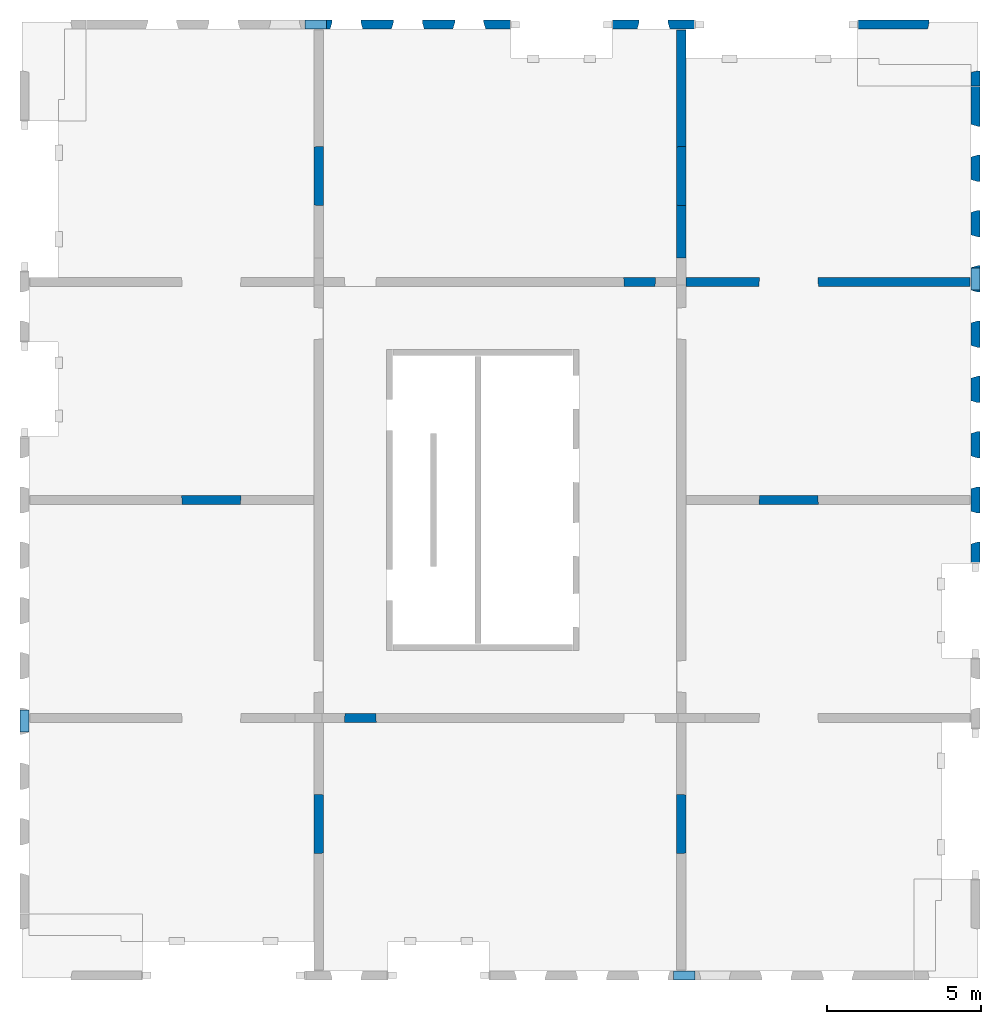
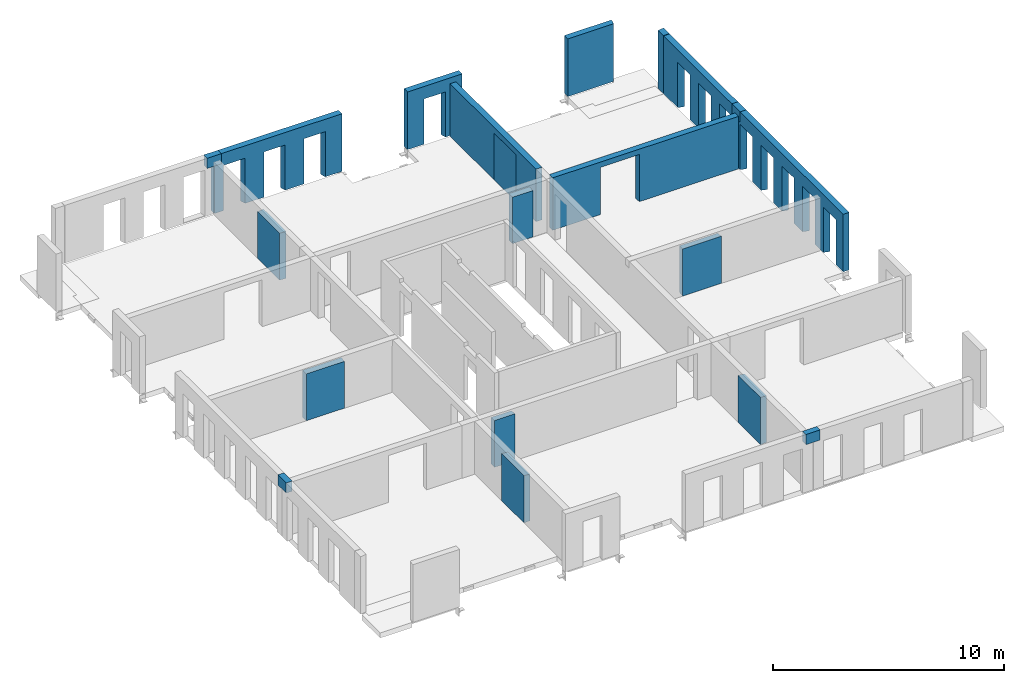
# One storey, part 4 of 4: 20 walls, 19 openings.
"""IFC2X3 building model written with IfcOpenShell, lengths in millimetres."""

from ifc_helpers import new_model, entity, si_unit, converted_unit, derived_unit, direction, frame, frame_2d, origin, place, context, subcontext, project, spatial, rectangle, extrude, faceted_brep, material, layer, layer_set, layer_usage, type_object, element, save


model = new_model("IFC2X3")

# Units and contexts
model_context = context("Model", 3, precision=0.01, world=origin(), true_north=direction((6.12303176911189e-17, 1.0)))
body_context = subcontext(model_context, "Body", "Model", "MODEL_VIEW")
ifc_project = project(units=[si_unit("LENGTHUNIT", "METRE", prefix="MILLI"), si_unit("AREAUNIT", "SQUARE_METRE"), si_unit("VOLUMEUNIT", "CUBIC_METRE"), converted_unit("PLANEANGLEUNIT", "DEGREE", entity("IfcRatioMeasure", 0.0174532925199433), si_unit("PLANEANGLEUNIT", "RADIAN"), dimensions=[0, 0, 0, 0, 0, 0, 0]), si_unit("MASSUNIT", "GRAM", prefix="KILO"), derived_unit("MASSDENSITYUNIT", [(si_unit("MASSUNIT", "GRAM", prefix="KILO"), 1), (si_unit("LENGTHUNIT", "METRE"), -3)]), si_unit("TIMEUNIT", "SECOND"), si_unit("FREQUENCYUNIT", "HERTZ"), si_unit("THERMODYNAMICTEMPERATUREUNIT", "DEGREE_CELSIUS"), derived_unit("THERMALTRANSMITTANCEUNIT", [(si_unit("MASSUNIT", "GRAM", prefix="KILO"), 1), (si_unit("THERMODYNAMICTEMPERATUREUNIT", "KELVIN"), -1), (si_unit("TIMEUNIT", "SECOND"), -3)]), derived_unit("VOLUMETRICFLOWRATEUNIT", [(si_unit("LENGTHUNIT", "METRE"), 3), (si_unit("TIMEUNIT", "SECOND"), -1)]), si_unit("ELECTRICCURRENTUNIT", "AMPERE"), si_unit("ELECTRICVOLTAGEUNIT", "VOLT"), si_unit("POWERUNIT", "WATT"), si_unit("FORCEUNIT", "NEWTON", prefix="KILO"), si_unit("ILLUMINANCEUNIT", "LUX"), si_unit("LUMINOUSFLUXUNIT", "LUMEN"), si_unit("LUMINOUSINTENSITYUNIT", "CANDELA"), derived_unit("USERDEFINED", [(si_unit("MASSUNIT", "GRAM", prefix="KILO"), -1), (si_unit("LENGTHUNIT", "METRE"), -2), (si_unit("TIMEUNIT", "SECOND"), 3), (si_unit("LUMINOUSFLUXUNIT", "LUMEN"), 1)]), derived_unit("LINEARVELOCITYUNIT", [(si_unit("LENGTHUNIT", "METRE"), 1), (si_unit("TIMEUNIT", "SECOND"), -1)]), si_unit("PRESSUREUNIT", "PASCAL"), derived_unit("USERDEFINED", [(si_unit("LENGTHUNIT", "METRE"), -2), (si_unit("MASSUNIT", "GRAM", prefix="KILO"), 1), (si_unit("TIMEUNIT", "SECOND"), -2)])], contexts=[model_context])

# Site, building, storey
site_placement = place(None, origin())
site = spatial("IfcSite", under=ifc_project, at=site_placement, Name="Default", CompositionType="ELEMENT")
building_placement = place(site_placement, origin())
building = spatial("IfcBuilding", under=site, at=building_placement, Name="niet gebruiken", CompositionType="ELEMENT")
storey_placement = place(building_placement, frame((0.0, 0.0, 131220.0)))
storey = spatial("IfcBuildingStorey", under=building, at=storey_placement, Name="42 tweeënveertigste verdieping", CompositionType="ELEMENT", Elevation=131220.0)

# Wall, opening
ifc_material_1 = material(Name="NLRS_f2_beton prefab")
ifc_layer_1 = layer(ifc_material_1, 300.0)
ifc_layer_set_1 = layer_set([ifc_layer_1], Name="Basic Wall:NLRS_22.21_WA_beton prefab d=300_gen")
ifc_layer_usage_1 = layer_usage(ifc_layer_set_1, "AXIS2", "NEGATIVE", 150.0)
wall_type_1 = type_object("IfcWallType", Name="Basic Wall:NLRS_22.21_WA_beton prefab d=300_gen", PredefinedType="STANDARD", material=ifc_layer_set_1)
wall_1_placement = place(storey_placement, frame((157060.0, 24600.0, -70.0), z_axis=(0.0, 0.0, 1.0), x_axis=(-1.0, 0.0, 0.0)))
wall_1 = element("IfcWallStandardCase", 1, at=wall_1_placement, inside=storey, type_object=wall_type_1, material=ifc_layer_usage_1, Name="Basic Wall:NLRS_22.21_WA_beton prefab d=300_gen", ObjectType="Basic Wall:NLRS_22.21_WA_beton prefab d=300_gen", context=body_context, shape_type="SweptSolid", body=[
    extrude(rectangle(XDim=9260.00000000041, YDim=300.000000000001, at=frame_2d((4630.0000000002, -1.69109171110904e-12), x_axis=(-1.0, 0.0))), origin(), (0.0, 0.0, 1.0), 2769.99999999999),
])
opening_1_placement = place(wall_1_placement, frame((6878.0, 150.0, 0.0)))
element("IfcOpeningElement", 2, at=opening_1_placement, cuts=wall_1, Name="Basic Wall:NLRS_22.21_WA_beton prefab d=300_gen", ObjectType="Opening", context=body_context, shape_type="Brep", body=[
    faceted_brep([(-18.0, -300.0, 2470.0), (-1918.0, -300.0, 2470.0), (-1918.0, -300.0, 0.0), (-18.0, -300.0, 0.0), (0.0, 0.0, 2488.0), (0.0, 0.0, 0.0), (-1936.0, 0.0, 0.0), (-1936.0, 0.0, 2488.0)], [[[0, 1, 2, 3]], [[4, 5, 6, 7]], [[4, 7, 1, 0]], [[7, 6, 2, 1]], [[6, 5, 3, 2]], [[5, 4, 0, 3]]]),
])

ifc_layer_usage_2 = layer_usage(ifc_layer_set_1, "AXIS2", "NEGATIVE", 150.0)
wall_2_placement = place(storey_placement, frame((147650.0, 25380.0, -70.0), z_axis=(0.0, 0.0, 1.0), x_axis=(0.0, 1.0, 0.0)))
wall_2 = element("IfcWallStandardCase", 3, at=wall_2_placement, inside=storey, type_object=wall_type_1, material=ifc_layer_usage_2, Name="Basic Wall:NLRS_22.21_WA_beton prefab d=300_gen", ObjectType="Basic Wall:NLRS_22.21_WA_beton prefab d=300_gen", context=body_context, shape_type="SweptSolid", body=[
    extrude(rectangle(XDim=7429.99999999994, YDim=300.000000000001, at=frame_2d((3714.99999999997, 7.14805992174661e-12), x_axis=(-1.0, 0.0))), origin(), (0.0, 0.0, 1.0), 2769.99999999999),
])
opening_2_placement = place(wall_2_placement, frame((1702.0, 150.0, 0.0)))
element("IfcOpeningElement", 4, at=opening_2_placement, cuts=wall_2, Name="Basic Wall:NLRS_22.21_WA_beton prefab d=300_gen", ObjectType="Opening", context=body_context, shape_type="Brep", body=[
    faceted_brep([(1918.0, 0.0, 2470.0), (1918.0, 0.0, 0.0), (18.0, 0.0, 0.0), (18.0, 0.0, 2470.0), (1936.0, -300.0, 2488.0), (0.0, -300.0, 2488.0), (0.0, -300.0, 0.0), (1936.0, -300.0, 0.0)], [[[0, 1, 2, 3]], [[4, 5, 6, 7]], [[4, 0, 3, 5]], [[5, 3, 2, 6]], [[6, 2, 1, 7]], [[7, 1, 0, 4]]]),
])

# Walls
ifc_material_2 = material(Name="NLRS_f2_beton ihwg")
ifc_layer_2 = layer(ifc_material_2, 300.0)
ifc_layer_set_2 = layer_set([ifc_layer_2], Name="Basic Wall:NLRS_21.21_WA_beton ihwg d=300_gen")
ifc_layer_usage_3 = layer_usage(ifc_layer_set_2, "AXIS2", "NEGATIVE", 150.0)
wall_type_2 = type_object("IfcWallType", Name="Basic Wall:NLRS_21.21_WA_beton ihwg d=300_gen", PredefinedType="STANDARD", material=ifc_layer_set_2)
wall_3_placement = place(storey_placement, frame((148105.0, 2020.0, 2455.0), z_axis=(0.0, 0.0, 1.0), x_axis=(-1.0, 0.0, 0.0)))
element("IfcWallStandardCase", 5, at=wall_3_placement, inside=storey, type_object=wall_type_2, material=ifc_layer_usage_3, Name="Basic Wall:NLRS_21.21_WA_beton ihwg d=300_gen", ObjectType="Basic Wall:NLRS_21.21_WA_beton ihwg d=300_gen", context=body_context, shape_type="SweptSolid", body=[
    extrude(rectangle(XDim=710.000000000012, YDim=300.0, at=frame_2d((355.000000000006, -1.4210854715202e-14), x_axis=(-1.0, 0.0))), origin(), (0.0, 0.0, 1.0), 535.0),
])
ifc_layer_usage_4 = layer_usage(ifc_layer_set_2, "AXIS2", "NEGATIVE", 150.0)
wall_4_placement = place(storey_placement, frame((135395.0, 32980.0, 2455.0)))
element("IfcWallStandardCase", 6, at=wall_4_placement, inside=storey, type_object=wall_type_2, material=ifc_layer_usage_4, Name="Basic Wall:NLRS_21.21_WA_beton ihwg d=300_gen", ObjectType="Basic Wall:NLRS_21.21_WA_beton ihwg d=300_gen", context=body_context, shape_type="SweptSolid", body=[
    extrude(rectangle(XDim=710.000000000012, YDim=300.000000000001, at=frame_2d((355.000000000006, 0.0), x_axis=(-1.0, 0.0))), origin(), (0.0, 0.0, 1.0), 535.0),
])
ifc_layer_usage_5 = layer_usage(ifc_layer_set_2, "AXIS2", "NEGATIVE", 150.0)
wall_5_placement = place(storey_placement, frame((157230.0, 25055.0, 2455.0), z_axis=(0.0, 0.0, 1.0), x_axis=(0.0, -1.0, 0.0)))
element("IfcWallStandardCase", 7, at=wall_5_placement, inside=storey, type_object=wall_type_2, material=ifc_layer_usage_5, Name="Basic Wall:NLRS_21.21_WA_beton ihwg d=300_gen", ObjectType="Basic Wall:NLRS_21.21_WA_beton ihwg d=300_gen", context=body_context, shape_type="SweptSolid", body=[
    extrude(rectangle(XDim=710.000000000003, YDim=300.000000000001, at=frame_2d((355.000000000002, 9.9475983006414e-13), x_axis=(-1.0, 0.0))), origin(), (0.0, 0.0, 1.0), 535.0),
])
ifc_layer_usage_6 = layer_usage(ifc_layer_set_2, "AXIS2", "NEGATIVE", 150.0)
wall_6_placement = place(storey_placement, frame((126270.0, 9945.0, 2455.0), z_axis=(0.0, 0.0, 1.0), x_axis=(0.0, 1.0, 0.0)))
element("IfcWallStandardCase", 8, at=wall_6_placement, inside=storey, type_object=wall_type_2, material=ifc_layer_usage_6, Name="Basic Wall:NLRS_21.21_WA_beton ihwg d=300_gen", ObjectType="Basic Wall:NLRS_21.21_WA_beton ihwg d=300_gen", context=body_context, shape_type="SweptSolid", body=[
    extrude(rectangle(XDim=710.000000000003, YDim=300.000000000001, at=frame_2d((355.000000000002, 0.0), x_axis=(-1.0, 0.0))), origin(), (0.0, 0.0, 1.0), 535.0),
])

# Wall, opening
ifc_layer_3 = layer(ifc_material_1, 300.0)
ifc_layer_set_3 = layer_set([ifc_layer_3], Name="Basic Wall:NLRS_21.21_WA_beton prefab d=300/320_gen")
ifc_layer_usage_7 = layer_usage(ifc_layer_set_3, "AXIS2", "NEGATIVE", 150.0)
wall_type_3 = type_object("IfcWallType", Name="Basic Wall:NLRS_21.21_WA_beton prefab d=300/320_gen", PredefinedType="STANDARD", material=ifc_layer_set_3)
wall_7_placement = place(storey_placement, frame((145390.0, 32980.0, -50.0)))
wall_7 = element("IfcWallStandardCase", 9, at=wall_7_placement, inside=storey, type_object=wall_type_3, material=ifc_layer_usage_7, Name="Basic Wall:NLRS_21.21_WA_beton prefab d=300/320_gen", ObjectType="Basic Wall:NLRS_21.21_WA_beton prefab d=300/320_gen", context=body_context, shape_type="SweptSolid", body=[
    extrude(rectangle(XDim=2720.00000000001, YDim=300.000000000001, at=frame_2d((1360.0, -4.54747350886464e-13), x_axis=(-1.0, 0.0))), origin(), (0.0, 0.0, 1.0), 3040.0),
])
opening_3_placement = place(wall_7_placement, frame((825.0, -150.0, -20.0)))
element("IfcOpeningElement", 10, at=opening_3_placement, cuts=wall_7, Name="Basic Wall:NLRS_21.21_WA_beton prefab d=300/320_gen", ObjectType="Opening", context=body_context, shape_type="Brep", body=[
    faceted_brep([(0.0, 0.0, 2405.0), (0.0, 0.0, 0.0), (1070.0, 0.0, 0.0), (1070.0, 0.0, 2405.0), (1005.0, 219.0, 2370.0), (65.0, 219.0, 2370.0), (1005.0, 219.0, 0.0), (65.0, 219.0, 0.0), (65.0, 300.0, 0.0), (1005.0, 300.0, 0.0), (65.0, 300.0, 2370.0), (1005.0, 300.0, 2370.0)], [[[0, 1, 2, 3]], [[3, 4, 5, 0]], [[2, 6, 4, 3]], [[1, 7, 8, 9, 6, 2]], [[0, 5, 7, 1]], [[10, 11, 9, 8]], [[10, 5, 4, 11]], [[11, 4, 6, 9]], [[8, 7, 5, 10]]]),
])

# Wall, openings
ifc_layer_usage_8 = layer_usage(ifc_layer_set_3, "AXIS2", "NEGATIVE", 150.0)
wall_8_placement = place(storey_placement, frame((157230.0, 30960.0, -50.0), z_axis=(0.0, 0.0, 1.0), x_axis=(0.0, -1.0, 0.0)))
wall_8 = element("IfcWallStandardCase", 11, at=wall_8_placement, inside=storey, type_object=wall_type_3, material=ifc_layer_usage_8, Name="Basic Wall:NLRS_21.21_WA_beton prefab d=300/320_gen", ObjectType="Basic Wall:NLRS_21.21_WA_beton prefab d=300/320_gen", context=body_context, shape_type="SweptSolid", body=[
    extrude(rectangle(XDim=6249.99999999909, YDim=300.000000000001, at=frame_2d((3124.99999999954, -8.61177795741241e-12), x_axis=(-1.0, 0.0))), origin(), (0.0, 0.0, 1.0), 3040.0),
])
opening_4_placement = place(wall_8_placement, frame((2295.0, -150.0, -20.0)))
element("IfcOpeningElement", 12, at=opening_4_placement, cuts=wall_8, Name="Basic Wall:NLRS_21.21_WA_beton prefab d=300/320_gen", ObjectType="Opening", context=body_context, shape_type="Brep", body=[
    faceted_brep([(-1070.0, 0.0, 2405.0), (-1070.0, 0.0, 0.0), (0.0, 0.0, 0.0), (0.0, 0.0, 2405.0), (-65.0, 219.0, 2370.0), (-1005.0, 219.0, 2370.0), (-65.0, 219.0, 0.0), (-1005.0, 219.0, 0.0), (-1005.0, 300.0, 0.0), (-65.0, 300.0, 0.0), (-1005.0, 300.0, 2370.0), (-65.0, 300.0, 2370.0)], [[[0, 1, 2, 3]], [[3, 4, 5, 0]], [[2, 6, 4, 3]], [[1, 7, 8, 9, 6, 2]], [[0, 5, 7, 1]], [[10, 11, 9, 8]], [[10, 5, 4, 11]], [[11, 4, 6, 9]], [[8, 7, 5, 10]]]),
])
opening_5_placement = place(wall_8_placement, frame((4095.0, -150.0, -20.0)))
element("IfcOpeningElement", 13, at=opening_5_placement, cuts=wall_8, Name="Basic Wall:NLRS_21.21_WA_beton prefab d=300/320_gen", ObjectType="Opening", context=body_context, shape_type="Brep", body=[
    faceted_brep([(-1070.0, 0.0, 2405.0), (-1070.0, 0.0, 0.0), (0.0, 0.0, 0.0), (0.0, 0.0, 2405.0), (-65.0, 219.0, 2370.0), (-1005.0, 219.0, 2370.0), (-65.0, 219.0, 0.0), (-1005.0, 219.0, 0.0), (-1005.0, 300.0, 0.0), (-65.0, 300.0, 0.0), (-1005.0, 300.0, 2370.0), (-65.0, 300.0, 2370.0)], [[[0, 1, 2, 3]], [[3, 4, 5, 0]], [[2, 6, 4, 3]], [[1, 7, 8, 9, 6, 2]], [[0, 5, 7, 1]], [[10, 11, 9, 8]], [[10, 5, 4, 11]], [[11, 4, 6, 9]], [[8, 7, 5, 10]]]),
])
opening_6_placement = place(wall_8_placement, frame((5895.0, -150.0, -20.0)))
element("IfcOpeningElement", 14, at=opening_6_placement, cuts=wall_8, Name="Basic Wall:NLRS_21.21_WA_beton prefab d=300/320_gen", ObjectType="Opening", context=body_context, shape_type="Brep", body=[
    faceted_brep([(-1070.0, 0.0, 2405.0), (-1070.0, 0.0, 0.0), (0.0, 0.0, 0.0), (0.0, 0.0, 2405.0), (-65.0, 219.0, 2370.0), (-1005.0, 219.0, 2370.0), (-65.0, 219.0, 0.0), (-1005.0, 219.0, 0.0), (-1005.0, 300.0, 0.0), (-65.0, 300.0, 0.0), (-1005.0, 300.0, 2370.0), (-65.0, 300.0, 2370.0)], [[[0, 1, 2, 3]], [[3, 4, 5, 0]], [[2, 6, 4, 3]], [[1, 7, 8, 9, 6, 2]], [[0, 5, 7, 1]], [[10, 11, 9, 8]], [[10, 5, 4, 11]], [[11, 4, 6, 9]], [[8, 7, 5, 10]]]),
])
opening_7_placement = place(wall_8_placement, origin())
element("IfcOpeningElement", 15, at=opening_7_placement, cuts=wall_8, Name="Basic Wall:NLRS_21.21_WA_beton prefab d=300/320_gen", ObjectType="Opening", context=body_context, shape_type="SweptSolid", body=[
    extrude(rectangle(XDim=534.99999999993, YDim=344.999999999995, at=frame_2d((0.0, -2.17426077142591e-12), x_axis=(1.0, 0.0))), frame((6077.49999999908, 150.0, 2772.50000000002), z_axis=(0.0, -1.0, 0.0), x_axis=(0.0, 0.0, 1.0)), (0.0, 0.0, 1.0), 300.0),
])

# Wall, opening
ifc_layer_usage_9 = layer_usage(ifc_layer_set_3, "AXIS2", "NEGATIVE", 150.0)
wall_9_placement = place(storey_placement, frame((153390.0, 32980.0, -50.0)))
wall_9 = element("IfcWallStandardCase", 16, at=wall_9_placement, inside=storey, type_object=wall_type_3, material=ifc_layer_usage_9, Name="Basic Wall:NLRS_21.21_WA_beton prefab d=300/320_gen", ObjectType="Basic Wall:NLRS_21.21_WA_beton prefab d=300/320_gen", context=body_context, shape_type="SweptSolid", body=[
    extrude(rectangle(XDim=2330.00000000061, YDim=300.000000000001, at=frame_2d((1165.00000000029, -1.29318777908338e-12), x_axis=(-1.0, 0.0))), origin(), (0.0, 0.0, 1.0), 3040.0),
])
opening_8_placement = place(wall_9_placement, frame((2265.0, -250.0, 0.0)))
element("IfcOpeningElement", 17, at=opening_8_placement, cuts=wall_9, Name="Basic Wall:NLRS_21.21_WA_beton prefab d=300/320_gen", ObjectType="Opening", context=body_context, shape_type="Brep", body=[
    faceted_brep([(65.0, 0.0, 3040.0), (65.0, 319.0, 3040.0), (0.0, 0.0, 3040.0), (65.0, 0.0, 0.0), (0.0, 0.0, 0.0), (65.0, 319.0, 0.0)], [[[0, 1, 2]], [[3, 4, 5]], [[2, 4, 3, 0]], [[0, 3, 5, 1]], [[1, 5, 4, 2]]]),
])

ifc_layer_usage_10 = layer_usage(ifc_layer_set_3, "AXIS2", "NEGATIVE", 150.0)
wall_10_placement = place(storey_placement, frame((157230.0, 31470.0, -50.0), z_axis=(0.0, 0.0, 1.0), x_axis=(0.0, -1.0, 0.0)))
wall_10 = element("IfcWallStandardCase", 18, at=wall_10_placement, inside=storey, type_object=wall_type_3, material=ifc_layer_usage_10, Name="Basic Wall:NLRS_21.21_WA_beton prefab d=300/320_gen", ObjectType="Basic Wall:NLRS_21.21_WA_beton prefab d=300/320_gen", context=body_context, shape_type="SweptSolid", body=[
    extrude(rectangle(XDim=489.999999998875, YDim=300.000000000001, at=frame_2d((244.999999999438, -7.8159700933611e-13), x_axis=(-1.0, 0.0))), origin(), (0.0, 0.0, 1.0), 3040.0),
])
opening_9_placement = place(wall_10_placement, frame((65.0, -250.0, 0.0)))
element("IfcOpeningElement", 19, at=opening_9_placement, cuts=wall_10, Name="Basic Wall:NLRS_21.21_WA_beton prefab d=300/320_gen", ObjectType="Opening", context=body_context, shape_type="Brep", body=[
    faceted_brep([(-65.0, 0.0, 3040.0), (0.0, 0.0, 3040.0), (-65.0, 319.0, 3040.0), (-65.0, 0.0, 0.0), (-65.0, 319.0, 0.0), (0.0, 0.0, 0.0)], [[[0, 1, 2]], [[3, 4, 5]], [[1, 0, 3, 5]], [[0, 2, 4, 3]], [[2, 1, 5, 4]]]),
])

# Wall, openings
ifc_layer_usage_11 = layer_usage(ifc_layer_set_3, "AXIS2", "NEGATIVE", 150.0)
wall_11_placement = place(storey_placement, frame((157230.0, 24690.0, -50.0), z_axis=(0.0, 0.0, 1.0), x_axis=(0.0, -1.0, 0.0)))
wall_11 = element("IfcWallStandardCase", 20, at=wall_11_placement, inside=storey, type_object=wall_type_3, material=ifc_layer_usage_11, Name="Basic Wall:NLRS_21.21_WA_beton prefab d=300/320_gen", ObjectType="Basic Wall:NLRS_21.21_WA_beton prefab d=300/320_gen", context=body_context, shape_type="SweptSolid", body=[
    extrude(rectangle(XDim=9250.00000000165, YDim=300.000000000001, at=frame_2d((4625.00000000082, -4.43378667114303e-12), x_axis=(-1.0, 0.0))), origin(), (0.0, 0.0, 1.0), 3040.0),
])
opening_10_placement = place(wall_11_placement, frame((8625.0, -150.0, -20.0)))
element("IfcOpeningElement", 21, at=opening_10_placement, cuts=wall_11, Name="Basic Wall:NLRS_21.21_WA_beton prefab d=300/320_gen", ObjectType="Opening", context=body_context, shape_type="Brep", body=[
    faceted_brep([(-1070.0, 0.0, 2405.0), (-1070.0, 0.0, 0.0), (0.0, 0.0, 0.0), (0.0, 0.0, 2405.0), (-65.0, 219.0, 2370.0), (-1005.0, 219.0, 2370.0), (-65.0, 219.0, 0.0), (-1005.0, 219.0, 0.0), (-1005.0, 300.0, 0.0), (-65.0, 300.0, 0.0), (-1005.0, 300.0, 2370.0), (-65.0, 300.0, 2370.0)], [[[0, 1, 2, 3]], [[3, 4, 5, 0]], [[2, 6, 4, 3]], [[1, 7, 8, 9, 6, 2]], [[0, 5, 7, 1]], [[10, 11, 9, 8]], [[10, 5, 4, 11]], [[11, 4, 6, 9]], [[8, 7, 5, 10]]]),
])
opening_11_placement = place(wall_11_placement, frame((5025.0, -150.0, -20.0)))
element("IfcOpeningElement", 22, at=opening_11_placement, cuts=wall_11, Name="Basic Wall:NLRS_21.21_WA_beton prefab d=300/320_gen", ObjectType="Opening", context=body_context, shape_type="Brep", body=[
    faceted_brep([(-1070.0, 0.0, 2405.0), (-1070.0, 0.0, 0.0), (0.0, 0.0, 0.0), (0.0, 0.0, 2405.0), (-65.0, 219.0, 2370.0), (-1005.0, 219.0, 2370.0), (-65.0, 219.0, 0.0), (-1005.0, 219.0, 0.0), (-1005.0, 300.0, 0.0), (-65.0, 300.0, 0.0), (-1005.0, 300.0, 2370.0), (-65.0, 300.0, 2370.0)], [[[0, 1, 2, 3]], [[3, 4, 5, 0]], [[2, 6, 4, 3]], [[1, 7, 8, 9, 6, 2]], [[0, 5, 7, 1]], [[10, 11, 9, 8]], [[10, 5, 4, 11]], [[11, 4, 6, 9]], [[8, 7, 5, 10]]]),
])
opening_12_placement = place(wall_11_placement, frame((3225.0, -150.0, -20.0)))
element("IfcOpeningElement", 23, at=opening_12_placement, cuts=wall_11, Name="Basic Wall:NLRS_21.21_WA_beton prefab d=300/320_gen", ObjectType="Opening", context=body_context, shape_type="Brep", body=[
    faceted_brep([(-1070.0, 0.0, 2405.0), (-1070.0, 0.0, 0.0), (0.0, 0.0, 0.0), (0.0, 0.0, 2405.0), (-65.0, 219.0, 2370.0), (-1005.0, 219.0, 2370.0), (-65.0, 219.0, 0.0), (-1005.0, 219.0, 0.0), (-1005.0, 300.0, 0.0), (-65.0, 300.0, 0.0), (-1005.0, 300.0, 2370.0), (-65.0, 300.0, 2370.0)], [[[0, 1, 2, 3]], [[3, 4, 5, 0]], [[2, 6, 4, 3]], [[1, 7, 8, 9, 6, 2]], [[0, 5, 7, 1]], [[10, 11, 9, 8]], [[10, 5, 4, 11]], [[11, 4, 6, 9]], [[8, 7, 5, 10]]]),
])
opening_13_placement = place(wall_11_placement, frame((6825.0, -150.0, -20.0)))
element("IfcOpeningElement", 24, at=opening_13_placement, cuts=wall_11, Name="Basic Wall:NLRS_21.21_WA_beton prefab d=300/320_gen", ObjectType="Opening", context=body_context, shape_type="Brep", body=[
    faceted_brep([(-1070.0, 0.0, 2405.0), (-1070.0, 0.0, 0.0), (0.0, 0.0, 0.0), (0.0, 0.0, 2405.0), (-65.0, 219.0, 2370.0), (-1005.0, 219.0, 2370.0), (-65.0, 219.0, 0.0), (-1005.0, 219.0, 0.0), (-1005.0, 300.0, 0.0), (-65.0, 300.0, 0.0), (-1005.0, 300.0, 2370.0), (-65.0, 300.0, 2370.0)], [[[0, 1, 2, 3]], [[3, 4, 5, 0]], [[2, 6, 4, 3]], [[1, 7, 8, 9, 6, 2]], [[0, 5, 7, 1]], [[10, 11, 9, 8]], [[10, 5, 4, 11]], [[11, 4, 6, 9]], [[8, 7, 5, 10]]]),
])
opening_14_placement = place(wall_11_placement, frame((1425.0, -150.0, -20.0)))
element("IfcOpeningElement", 25, at=opening_14_placement, cuts=wall_11, Name="Basic Wall:NLRS_21.21_WA_beton prefab d=300/320_gen", ObjectType="Opening", context=body_context, shape_type="Brep", body=[
    faceted_brep([(0.0, 0.0, 2405.0), (-1070.0, 0.0, 2405.0), (-1070.0, 0.0, 0.0), (0.0, 0.0, 0.0), (-65.0, 219.0, 2370.0), (-1005.0, 219.0, 2370.0), (-1005.0, 219.0, 0.0), (-1005.0, 300.0, 0.0), (-65.0, 300.0, 0.0), (-65.0, 219.0, 0.0), (-65.0, 300.0, 2370.0), (-1005.0, 300.0, 2370.0)], [[[0, 1, 2, 3]], [[1, 0, 4, 5]], [[2, 1, 5, 6]], [[3, 2, 6, 7, 8, 9]], [[0, 3, 9, 4]], [[10, 8, 7, 11]], [[10, 11, 5, 4]], [[11, 7, 6, 5]], [[8, 10, 4, 9]]]),
])
opening_15_placement = place(wall_11_placement, origin())
element("IfcOpeningElement", 26, at=opening_15_placement, cuts=wall_11, Name="Basic Wall:NLRS_21.21_WA_beton prefab d=300/320_gen", ObjectType="Opening", context=body_context, shape_type="SweptSolid", body=[
    extrude(rectangle(XDim=534.999999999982, YDim=345.000000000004, at=frame_2d((-2.1600499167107e-12, -8.66862137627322e-12), x_axis=(0.0, 1.0))), frame((172.5, 150.0, 2772.5), z_axis=(0.0, -1.0, 0.0), x_axis=(-1.0, 0.0, 0.0)), (0.0, 0.0, 1.0), 300.0),
])

ifc_layer_usage_12 = layer_usage(ifc_layer_set_3, "AXIS2", "NEGATIVE", 150.0)
wall_12_placement = place(storey_placement, frame((135760.0, 32980.0, -50.0)))
wall_12 = element("IfcWallStandardCase", 27, at=wall_12_placement, inside=storey, type_object=wall_type_3, material=ifc_layer_usage_12, Name="Basic Wall:NLRS_21.21_WA_beton prefab d=300/320_gen", ObjectType="Basic Wall:NLRS_21.21_WA_beton prefab d=300/320_gen", context=body_context, shape_type="SweptSolid", body=[
    extrude(rectangle(XDim=6350.00000000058, YDim=300.000000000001, at=frame_2d((3175.00000000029, 0.0), x_axis=(-1.0, 0.0))), origin(), (0.0, 0.0, 1.0), 3040.0),
])
opening_16_placement = place(wall_12_placement, frame((455.0, -150.0, -20.0)))
element("IfcOpeningElement", 28, at=opening_16_placement, cuts=wall_12, Name="Basic Wall:NLRS_21.21_WA_beton prefab d=300/320_gen", ObjectType="Opening", context=body_context, shape_type="Brep", body=[
    faceted_brep([(1070.0, 0.0, 2405.0), (0.0, 0.0, 2405.0), (0.0, 0.0, 0.0), (1070.0, 0.0, 0.0), (1005.0, 219.0, 2370.0), (65.0, 219.0, 2370.0), (65.0, 219.0, 0.0), (65.0, 300.0, 0.0), (1005.0, 300.0, 0.0), (1005.0, 219.0, 0.0), (1005.0, 300.0, 2370.0), (65.0, 300.0, 2370.0)], [[[0, 1, 2, 3]], [[1, 0, 4, 5]], [[2, 1, 5, 6]], [[3, 2, 6, 7, 8, 9]], [[0, 3, 9, 4]], [[10, 8, 7, 11]], [[10, 11, 5, 4]], [[11, 7, 6, 5]], [[8, 10, 4, 9]]]),
])
opening_17_placement = place(wall_12_placement, frame((2455.0, -150.0, -20.0)))
element("IfcOpeningElement", 29, at=opening_17_placement, cuts=wall_12, Name="Basic Wall:NLRS_21.21_WA_beton prefab d=300/320_gen", ObjectType="Opening", context=body_context, shape_type="Brep", body=[
    faceted_brep([(1070.0, 0.0, 2405.0), (0.0, 0.0, 2405.0), (0.0, 0.0, 0.0), (1070.0, 0.0, 0.0), (1005.0, 219.0, 2370.0), (65.0, 219.0, 2370.0), (65.0, 219.0, 0.0), (65.0, 300.0, 0.0), (1005.0, 300.0, 0.0), (1005.0, 219.0, 0.0), (1005.0, 300.0, 2370.0), (65.0, 300.0, 2370.0)], [[[0, 1, 2, 3]], [[1, 0, 4, 5]], [[2, 1, 5, 6]], [[3, 2, 6, 7, 8, 9]], [[0, 3, 9, 4]], [[10, 8, 7, 11]], [[10, 11, 5, 4]], [[11, 7, 6, 5]], [[8, 10, 4, 9]]]),
])
opening_18_placement = place(wall_12_placement, frame((4455.0, -150.0, -20.0)))
element("IfcOpeningElement", 30, at=opening_18_placement, cuts=wall_12, Name="Basic Wall:NLRS_21.21_WA_beton prefab d=300/320_gen", ObjectType="Opening", context=body_context, shape_type="Brep", body=[
    faceted_brep([(1070.0, 0.0, 2405.0), (0.0, 0.0, 2405.0), (0.0, 0.0, 0.0), (1070.0, 0.0, 0.0), (1005.0, 219.0, 2370.0), (65.0, 219.0, 2370.0), (65.0, 219.0, 0.0), (65.0, 300.0, 0.0), (1005.0, 300.0, 0.0), (1005.0, 219.0, 0.0), (1005.0, 300.0, 2370.0), (65.0, 300.0, 2370.0)], [[[0, 1, 2, 3]], [[1, 0, 4, 5]], [[2, 1, 5, 6]], [[3, 2, 6, 7, 8, 9]], [[0, 3, 9, 4]], [[10, 8, 7, 11]], [[10, 11, 5, 4]], [[11, 7, 6, 5]], [[8, 10, 4, 9]]]),
])
opening_19_placement = place(wall_12_placement, origin())
element("IfcOpeningElement", 31, at=opening_19_placement, cuts=wall_12, Name="Basic Wall:NLRS_21.21_WA_beton prefab d=300/320_gen", ObjectType="Opening", context=body_context, shape_type="SweptSolid", body=[
    extrude(rectangle(XDim=534.999999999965, YDim=345.000000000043, at=frame_2d((0.0, 0.0), x_axis=(0.0, 1.0))), frame((172.500000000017, 150.0, 2772.5), z_axis=(0.0, -1.0, 0.0), x_axis=(-1.0, 0.0, 0.0)), (0.0, 0.0, 1.0), 300.0),
])

# Walls
ifc_material_3 = material(Name="NLRS_f2_beton prefab dichtstorten")
wall_type_4 = type_object("IfcWallType", Name="Parametric Wall:NLRS_22.21_WA_beton prefab d=500 1900x2470_gen", PredefinedType="NOTDEFINED", material=ifc_material_3)
wall_13_placement = place(storey_placement, frame((135700.0, 5982.0, -70.0), z_axis=(0.0, 0.0, 1.0), x_axis=(0.0, 1.0, 0.0)))
element("IfcWall", 32, at=wall_13_placement, inside=storey, type_object=wall_type_4, material=ifc_material_3, Name="Parametric Wall:NLRS_22.21_WA_beton prefab d=500 1900x2470_gen", ObjectType="Parametric Wall:NLRS_22.21_WA_beton prefab d=500 1900x2470_gen", context=body_context, shape_type="Brep", body=[
    faceted_brep([(1936.0, 0.0, 2488.0), (1936.0, 0.0, 0.0), (0.0, 0.0, 0.0), (0.0, 0.0, 2488.0), (1918.0, -300.0, 2470.0), (18.0, -300.0, 2470.0), (18.0, -300.0, 0.0), (1918.0, -300.0, 0.0)], [[[0, 1, 2, 3]], [[4, 5, 6, 7]], [[4, 7, 1, 0]], [[7, 6, 2, 1]], [[6, 5, 3, 2]], [[5, 4, 0, 3]]]),
])
wall_14_placement = place(storey_placement, frame((131382.0, 17350.0, -70.0)))
element("IfcWall", 33, at=wall_14_placement, inside=storey, type_object=wall_type_4, material=ifc_material_3, Name="Parametric Wall:NLRS_22.21_WA_beton prefab d=500 1900x2470_gen", ObjectType="Parametric Wall:NLRS_22.21_WA_beton prefab d=500 1900x2470_gen", context=body_context, shape_type="Brep", body=[
    faceted_brep([(1936.0, 300.0, 2488.0), (1936.0, 300.0, 0.0), (0.0, 300.0, 0.0), (0.0, 300.0, 2488.0), (1918.0, 0.0, 2470.0), (18.0, 0.0, 2470.0), (18.0, 0.0, 0.0), (1918.0, 0.0, 0.0)], [[[0, 1, 2, 3]], [[4, 5, 6, 7]], [[4, 7, 1, 0]], [[7, 6, 2, 1]], [[6, 5, 3, 2]], [[5, 4, 0, 3]]]),
])
wall_15_placement = place(storey_placement, frame((147500.0, 5982.0, -70.0), z_axis=(0.0, 0.0, 1.0), x_axis=(0.0, 1.0, 0.0)))
element("IfcWall", 34, at=wall_15_placement, inside=storey, type_object=wall_type_4, material=ifc_material_3, Name="Parametric Wall:NLRS_22.21_WA_beton prefab d=500 1900x2470_gen", ObjectType="Parametric Wall:NLRS_22.21_WA_beton prefab d=500 1900x2470_gen", context=body_context, shape_type="Brep", body=[
    faceted_brep([(1936.0, 0.0, 2488.0), (1936.0, 0.0, 0.0), (0.0, 0.0, 0.0), (0.0, 0.0, 2488.0), (1918.0, -300.0, 2470.0), (18.0, -300.0, 2470.0), (18.0, -300.0, 0.0), (1918.0, -300.0, 0.0)], [[[0, 1, 2, 3]], [[4, 5, 6, 7]], [[4, 7, 1, 0]], [[7, 6, 2, 1]], [[6, 5, 3, 2]], [[5, 4, 0, 3]]]),
])
for number, where, z_axis, x_axis in (
    (35, (147500.0, 27082.0, -70.0), (0.0, 0.0, 1.0), (0.0, 1.0, 0.0)),
    (36, (135700.0, 27082.0, -70.0), (0.0, 0.0, 1.0), (0.0, 1.0, 0.0)),
):
    element("IfcWall", number, at=place(storey_placement, frame(where, z_axis=z_axis, x_axis=x_axis)), inside=storey, type_object=wall_type_4, material=ifc_material_3, Name="Parametric Wall:NLRS_22.21_WA_beton prefab d=500 1900x2470_gen", ObjectType="Parametric Wall:NLRS_22.21_WA_beton prefab d=500 1900x2470_gen", context=body_context, shape_type="Brep", body=[
        faceted_brep([(0.0, -300.0, 2488.0), (0.0, -300.0, 0.0), (1936.0, -300.0, 0.0), (1936.0, -300.0, 2488.0), (18.0, 0.0, 2470.0), (1918.0, 0.0, 2470.0), (1918.0, 0.0, 0.0), (18.0, 0.0, 0.0)], [[[0, 1, 2, 3]], [[4, 5, 6, 7]], [[4, 7, 1, 0]], [[7, 6, 2, 1]], [[6, 5, 3, 2]], [[5, 4, 0, 3]]]),
    ])
wall_16_placement = place(storey_placement, frame((150182.0, 17350.0, -70.0)))
element("IfcWall", 37, at=wall_16_placement, inside=storey, type_object=wall_type_4, material=ifc_material_3, Name="Parametric Wall:NLRS_22.21_WA_beton prefab d=500 1900x2470_gen", ObjectType="Parametric Wall:NLRS_22.21_WA_beton prefab d=500 1900x2470_gen", context=body_context, shape_type="Brep", body=[
    faceted_brep([(0.0, 0.0, 2488.0), (0.0, 0.0, 0.0), (1936.0, 0.0, 0.0), (1936.0, 0.0, 2488.0), (18.0, 300.0, 2470.0), (1918.0, 300.0, 2470.0), (1918.0, 300.0, 0.0), (18.0, 300.0, 0.0)], [[[0, 1, 2, 3]], [[4, 5, 6, 7]], [[4, 7, 1, 0]], [[7, 6, 2, 1]], [[6, 5, 3, 2]], [[5, 4, 0, 3]]]),
])
wall_type_5 = type_object("IfcWallType", Name="Parametric Wall:NLRS_22.21_WA_beton prefab d=500 1006x2448_gen", PredefinedType="NOTDEFINED", material=ifc_material_3)
wall_17_placement = place(storey_placement, frame((136682.0, 10250.0, -70.0)))
element("IfcWall", 38, at=wall_17_placement, inside=storey, type_object=wall_type_5, material=ifc_material_3, Name="Parametric Wall:NLRS_22.21_WA_beton prefab d=500 1006x2448_gen", ObjectType="Parametric Wall:NLRS_22.21_WA_beton prefab d=500 1006x2448_gen", context=body_context, shape_type="Brep", body=[
    faceted_brep([(0.0, 0.0, 2466.0), (0.0, 0.0, 0.0), (1042.0, 0.0, 0.0), (1042.0, 0.0, 2466.0), (18.0, 300.0, 2448.0), (1024.0, 300.0, 2448.0), (1024.0, 300.0, 0.0), (18.0, 300.0, 0.0)], [[[0, 1, 2, 3]], [[4, 5, 6, 7]], [[4, 7, 1, 0]], [[7, 6, 2, 1]], [[6, 5, 3, 2]], [[5, 4, 0, 3]]]),
])
wall_18_placement = place(storey_placement, frame((145776.0, 24450.0, -70.0)))
element("IfcWall", 39, at=wall_18_placement, inside=storey, type_object=wall_type_5, material=ifc_material_3, Name="Parametric Wall:NLRS_22.21_WA_beton prefab d=500 1006x2448_gen", ObjectType="Parametric Wall:NLRS_22.21_WA_beton prefab d=500 1006x2448_gen", context=body_context, shape_type="Brep", body=[
    faceted_brep([(1042.0, 300.0, 2466.0), (1042.0, 300.0, 0.0), (0.0, 300.0, 0.0), (0.0, 300.0, 2466.0), (1024.0, 0.0, 2448.0), (18.0, 0.0, 2448.0), (18.0, 0.0, 0.0), (1024.0, 0.0, 0.0)], [[[0, 1, 2, 3]], [[4, 5, 6, 7]], [[4, 7, 1, 0]], [[7, 6, 2, 1]], [[6, 5, 3, 2]], [[5, 4, 0, 3]]]),
])

save(model, "model.ifc")
